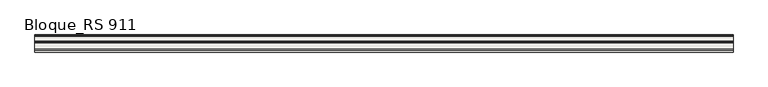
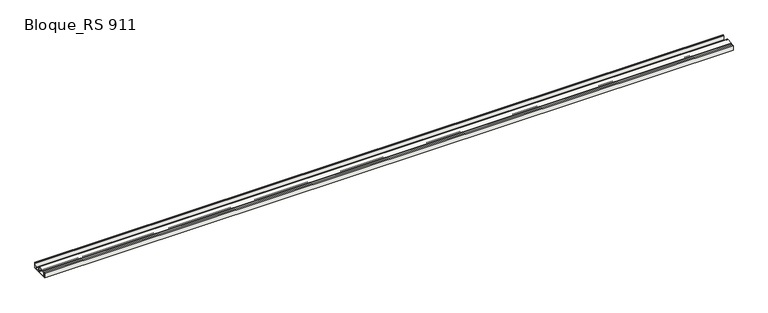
"""IFC4 building model written with IfcOpenShell, lengths in millimetres: slab geometry, ROSA GRES_RS 911 : Bloque_RS 911."""

from ifc_helpers import new_model, si_unit, point, frame, frame_2d, origin, place, context, project, spatial, polyline, circle_curve, trimmed, segment, composite_curve, outline, extrude, source, transform, mapped, element, save


def bloque_rs_911_215bbb40(model_context):
    return source(origin(), model_context, "Body", "SweptSolid", [
        extrude(outline(composite_curve([segment(polyline([(12.836227, 1.7539108), (12.836227, 171.9333029), (67.836227, 176.4100471), (67.836227, 173.8170239), (72.836227, 173.8170239), (72.836227, 176.8170239), (125.1172881, 181.0724591), (123.836227, 196.8112099), (343.836227, 214.7181867), (343.836227, 216.3460936), (363.836227, 216.3460936), (363.836227, 206.3460936), (381.836227, 206.3460936), (393.5484732, 55.2086635)]), True, "CONTINUOUS"), segment(trimmed(circle_curve(frame_2d((413.4886891, 56.7539108)), 20.0), [point((393.5484732, 55.2086635))], [point((413.4886891, 36.7539108))], True, "CARTESIAN"), True, "CONTINUOUS"), segment(polyline([(413.4886891, 36.7539108), (567.1837649, 36.7539108)]), True, "CONTINUOUS"), segment(trimmed(circle_curve(frame_2d((567.1837649, 56.7539108)), 20.0), [point((567.1837649, 36.7539108))], [point((587.1239808, 55.2086635))], True, "CARTESIAN"), True, "CONTINUOUS"), segment(polyline([(587.1239808, 55.2086635), (598.836227, 206.3460936), (616.836227, 206.3460936), (616.836227, 216.3460936), (626.836227, 216.3460936), (626.836227, 1.7539108), (12.836227, 1.7539108)]), True, "CONTINUOUS")], self_intersect=False), holes=[composite_curve([segment(trimmed(circle_curve(frame_2d((59.836227, 140.6431347)), 8.0), [point((67.836227, 140.6431347))], [point((59.1872106, 148.6167648))], True, "CARTESIAN"), True, "CONTINUOUS"), segment(polyline([(59.1872106, 148.6167648), (47.1872106, 147.6400206)]), True, "CONTINUOUS"), segment(trimmed(circle_curve(frame_2d((47.836227, 139.6663905)), 8.0), [point((47.1872106, 147.6400206))], [point((39.836227, 139.6663905))], True, "CARTESIAN"), True, "CONTINUOUS"), segment(polyline([(39.836227, 139.6663905), (39.836227, 36.7539108)]), True, "CONTINUOUS"), segment(trimmed(circle_curve(frame_2d((47.836227, 36.7539108)), 8.0), [point((39.836227, 36.7539108))], [point((47.836227, 28.7539108))], True, "CARTESIAN"), True, "CONTINUOUS"), segment(polyline([(47.836227, 28.7539108), (59.836227, 28.7539108)]), True, "CONTINUOUS"), segment(trimmed(circle_curve(frame_2d((59.836227, 36.7539108)), 8.0), [point((59.836227, 28.7539108))], [point((67.836227, 36.7539108))], True, "CARTESIAN"), True, "CONTINUOUS"), segment(polyline([(67.836227, 36.7539108), (67.836227, 140.6431347)]), True, "CONTINUOUS")], self_intersect=False), composite_curve([segment(trimmed(circle_curve(frame_2d((187.3063127, 84.534333)), 85.0), [point((180.4105134, 169.2541533))], [point((102.3063127, 84.534333))], True, "CARTESIAN"), True, "CONTINUOUS"), segment(polyline([(102.3063127, 84.534333), (102.3063127, 28.7539108), (356.3063127, 28.7539108), (356.3063127, 161.8772036)]), True, "CONTINUOUS"), segment(trimmed(circle_curve(frame_2d((336.3063127, 161.8772036)), 20.0), [point((356.3063127, 161.8772036))], [point((334.6837717, 181.811279))], True, "CARTESIAN"), True, "CONTINUOUS"), segment(polyline([(334.6837717, 181.811279), (180.4105134, 169.2541533)]), True, "CONTINUOUS")], self_intersect=False)]), frame((0.0, 0.0, 0.0), z_axis=(1.0, 0.0, 0.0), x_axis=(0.0, 1.0, 0.0)), (0.0, 0.0, 1.0), 24991.25),
    ])


if __name__ == "__main__":
    model = new_model("IFC4")
    model_context = context("Model", 3, world=origin())
    ifc_project = project(units=[si_unit("LENGTHUNIT", "METRE", prefix="MILLI")], contexts=[model_context])
    site = spatial("IfcSite", under=ifc_project)
    building = spatial("IfcBuilding", under=site)
    placement = place(None, origin())
    bloque_rs_911_shape = bloque_rs_911_215bbb40(model_context)
    element("IfcSlab", 1, ObjectType="ROSA GRES_RS 911 : Bloque_RS 911", at=placement, inside=building, context=model_context, shape_type="MappedRepresentation", body=[
        mapped(bloque_rs_911_shape, transform((0.0, 0.0, 0.0), x_axis=(1.0, 0.0, 0.0), y_axis=(0.0, 1.0, 0.0), z_axis=(0.0, 0.0, 1.0))),
    ])
    save(model, "model.ifc")
